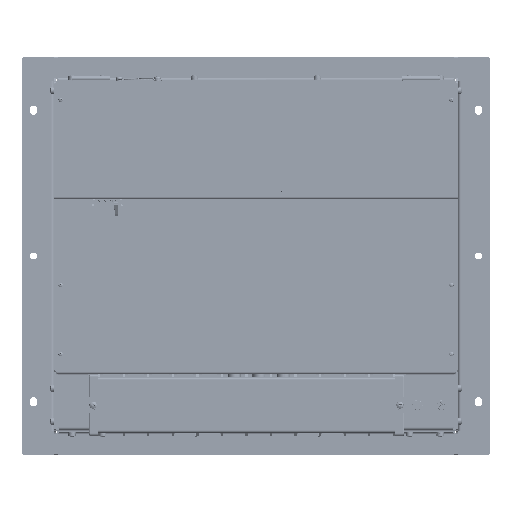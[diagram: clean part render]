
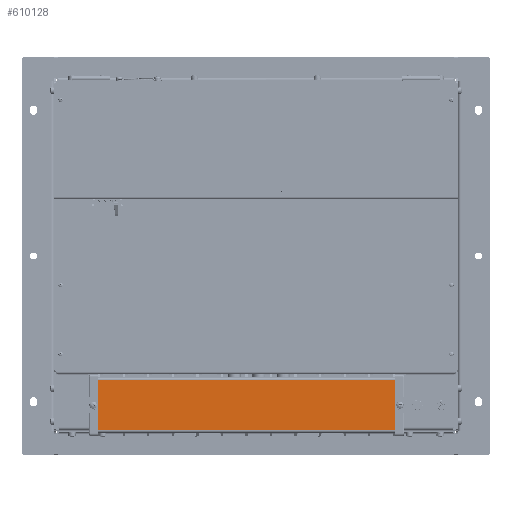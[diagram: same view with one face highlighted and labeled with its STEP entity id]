
A CAD part, top view. The second image highlights one B-rep face of the part: STEP entity #610128.
In plain terms, the highlighted planar face has unit normal (0, 0, 1).
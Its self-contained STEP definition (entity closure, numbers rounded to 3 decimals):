
#10116 = ORIENTED_EDGE ( 'NONE', *, *, #474547, .F. ) ;
#22784 = CARTESIAN_POINT ( 'NONE',  ( 188.476, -164.719, 249.848 ) ) ;
#51155 = LINE ( 'NONE', #240585, #198636 ) ;
#51351 = CARTESIAN_POINT ( 'NONE',  ( 188.476, -230.819, 249.848 ) ) ;
#55555 = FACE_OUTER_BOUND ( 'NONE', #57746, .T. ) ;
#57746 = EDGE_LOOP ( 'NONE', ( #504752, #10116, #653852, #334934 ) ) ;
#58769 = CARTESIAN_POINT ( 'NONE',  ( -198.524, -230.819, 249.848 ) ) ;
#77660 = AXIS2_PLACEMENT_3D ( 'NONE', #530012, #380860, #222851 ) ;
#119822 = VERTEX_POINT ( 'NONE', #22784 ) ;
#141820 = VECTOR ( 'NONE', #315644, 1000. ) ;
#189788 = DIRECTION ( 'NONE',  ( -1., 0., 0. ) ) ;
#198090 = EDGE_CURVE ( 'NONE', #261014, #582425, #338514, .T. ) ;
#198636 = VECTOR ( 'NONE', #499526, 1000. ) ;
#222851 = DIRECTION ( 'NONE',  ( -1., 0., 0. ) ) ;
#240585 = CARTESIAN_POINT ( 'NONE',  ( -99.524, -164.719, 249.848 ) ) ;
#261014 = VERTEX_POINT ( 'NONE', #665029 ) ;
#277951 = EDGE_CURVE ( 'NONE', #572959, #582425, #435493, .T. ) ;
#306909 = DIRECTION ( 'NONE',  ( 0., -1., 0. ) ) ;
#315644 = DIRECTION ( 'NONE',  ( 0., -1., 0. ) ) ;
#334934 = ORIENTED_EDGE ( 'NONE', *, *, #198090, .T. ) ;
#338514 = LINE ( 'NONE', #58769, #141820 ) ;
#343375 = CARTESIAN_POINT ( 'NONE',  ( -99.524, -230.819, 249.848 ) ) ;
#345332 = VECTOR ( 'NONE', #189788, 1000. ) ;
#380860 = DIRECTION ( 'NONE',  ( 0., 0., -1. ) ) ;
#381099 = VECTOR ( 'NONE', #306909, 1000. ) ;
#427144 = CARTESIAN_POINT ( 'NONE',  ( -198.524, -230.819, 249.848 ) ) ;
#435493 = LINE ( 'NONE', #343375, #345332 ) ;
#474547 = EDGE_CURVE ( 'NONE', #119822, #572959, #603752, .T. ) ;
#499526 = DIRECTION ( 'NONE',  ( 1., 0., 0. ) ) ;
#504752 = ORIENTED_EDGE ( 'NONE', *, *, #277951, .F. ) ;
#515499 = CARTESIAN_POINT ( 'NONE',  ( 188.476, -164.719, 249.848 ) ) ;
#527159 = EDGE_CURVE ( 'NONE', #261014, #119822, #51155, .T. ) ;
#530012 = CARTESIAN_POINT ( 'NONE',  ( -99.524, -230.819, 249.848 ) ) ;
#572959 = VERTEX_POINT ( 'NONE', #51351 ) ;
#582425 = VERTEX_POINT ( 'NONE', #427144 ) ;
#603752 = LINE ( 'NONE', #515499, #381099 ) ;
#610128 = ADVANCED_FACE ( 'NONE', ( #55555 ), #637898, .F. ) ;
#637898 = PLANE ( 'NONE',  #77660 ) ;
#653852 = ORIENTED_EDGE ( 'NONE', *, *, #527159, .F. ) ;
#665029 = CARTESIAN_POINT ( 'NONE',  ( -198.524, -164.719, 249.848 ) ) ;
